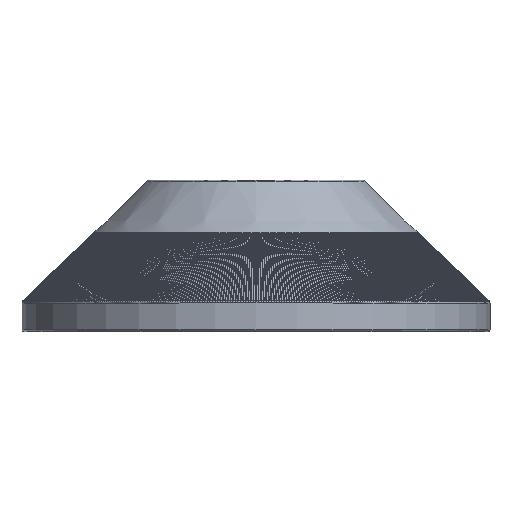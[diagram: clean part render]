
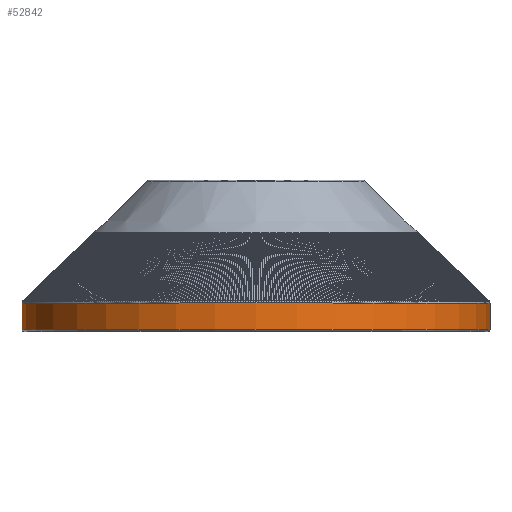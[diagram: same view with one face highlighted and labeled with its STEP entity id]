
A CAD part, top view. The second image highlights one B-rep face of the part: STEP entity #52842.
In plain terms, the highlighted cylindrical face has radius 11.75 mm (diameter 23.5 mm), a full revolution.
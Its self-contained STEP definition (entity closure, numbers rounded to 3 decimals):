
#6444=FACE_OUTER_BOUND('',#9388,.T.);
#9388=EDGE_LOOP('',(#49309,#49310,#49311,#49312));
#14348=CIRCLE('',#53167,11.75);
#16918=CIRCLE('',#56341,11.75);
#17032=LINE('',#221393,#17143);
#17143=VECTOR('',#63425,11.75);
#18034=VERTEX_POINT('',#72696);
#22993=VERTEX_POINT('',#221389);
#23895=EDGE_CURVE('',#18034,#18034,#14348,.T.);
#31766=EDGE_CURVE('',#22993,#22993,#16918,.T.);
#31768=EDGE_CURVE('',#18034,#22993,#17032,.T.);
#49309=ORIENTED_EDGE('',*,*,#23895,.F.);
#49310=ORIENTED_EDGE('',*,*,#31768,.T.);
#49311=ORIENTED_EDGE('',*,*,#31766,.F.);
#49312=ORIENTED_EDGE('',*,*,#31768,.F.);
#49910=CYLINDRICAL_SURFACE('',#56343,11.75);
#52842=ADVANCED_FACE('',(#6444),#49910,.T.);
#53167=AXIS2_PLACEMENT_3D('',#72698,#56972,#56973);
#56341=AXIS2_PLACEMENT_3D('',#221390,#63419,#63420);
#56343=AXIS2_PLACEMENT_3D('',#221392,#63423,#63424);
#56972=DIRECTION('center_axis',(0.,1.,0.));
#56973=DIRECTION('ref_axis',(0.,0.,-1.));
#63419=DIRECTION('center_axis',(0.,-1.,0.));
#63420=DIRECTION('ref_axis',(0.,0.,-1.));
#63423=DIRECTION('center_axis',(0.,1.,0.));
#63424=DIRECTION('ref_axis',(0.,0.,1.));
#63425=DIRECTION('',(0.,-1.,0.));
#72696=CARTESIAN_POINT('',(0.,1.415,-11.75));
#72698=CARTESIAN_POINT('Origin',(0.,1.415,0.));
#221389=CARTESIAN_POINT('',(0.,0.1,-11.75));
#221390=CARTESIAN_POINT('Origin',(0.,0.1,0.));
#221392=CARTESIAN_POINT('Origin',(0.,0.75,0.));
#221393=CARTESIAN_POINT('',(0.,0.75,-11.75));
